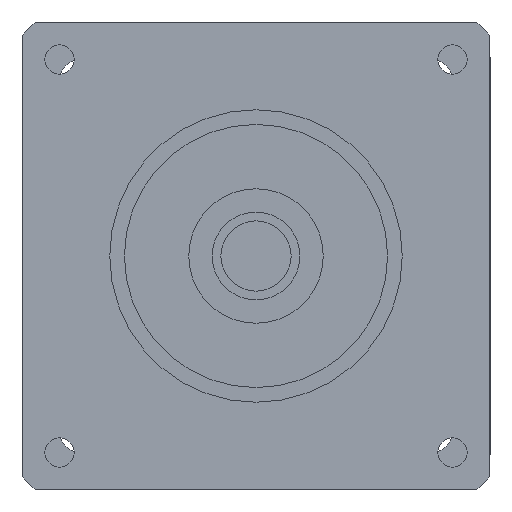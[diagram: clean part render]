
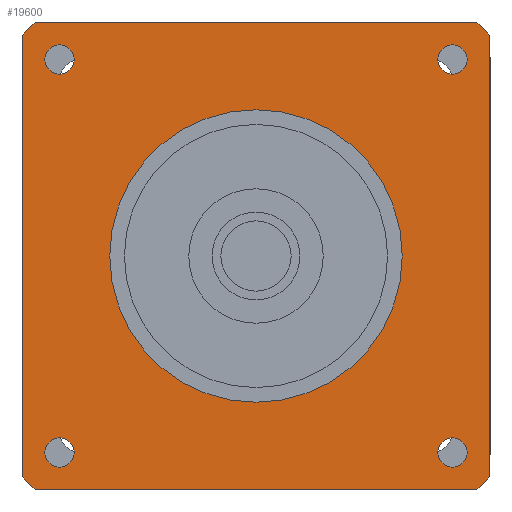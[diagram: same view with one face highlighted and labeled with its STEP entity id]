
A CAD part, left-side view. The second image highlights one B-rep face of the part: STEP entity #19600.
In plain terms, the highlighted planar face has unit normal (-1, 0, 0) as drawn and (0, 0, -1) by its records, which use the part's own axes.
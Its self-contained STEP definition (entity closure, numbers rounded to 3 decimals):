
#14150=CARTESIAN_POINT('',(-40.,-37.749,-42.));
#14160=VERTEX_POINT('',#14150);
#14210=CARTESIAN_POINT('',(-40.,40.,-42.));
#14220=DIRECTION('',(0.,-1.,0.));
#14230=VECTOR('',#14220,1000.);
#14240=LINE('',#14210,#14230);
#14250=CARTESIAN_POINT('',(-40.,37.749,-42.));
#14260=VERTEX_POINT('',#14250);
#14270=EDGE_CURVE('',#14260,#14160,#14240,.T.);
#18060=CARTESIAN_POINT('',(33.588,-31.088,-42.));
#18070=VERTEX_POINT('',#18060);
#18150=CARTESIAN_POINT('',(33.588,-36.088,-42.));
#18160=VERTEX_POINT('',#18150);
#18190=CARTESIAN_POINT('',(33.588,-33.588,-42.));
#18200=DIRECTION('',(0.,0.,1.));
#18210=DIRECTION('',(0.,1.,0.));
#18220=AXIS2_PLACEMENT_3D('',#18190,#18200,#18210);
#18230=CIRCLE('',#18220,2.5);
#18240=EDGE_CURVE('',#18160,#18070,#18230,.T.);
#18290=CARTESIAN_POINT('',(40.,-40.,-42.));
#18300=DIRECTION('',(0.,0.,1.));
#18310=DIRECTION('',(0.,1.,0.));
#18320=AXIS2_PLACEMENT_3D('',#18290,#18300,#18310);
#18330=PLANE('',#18320);
#18340=CARTESIAN_POINT('',(-33.588,-33.588,-42.));
#18350=DIRECTION('',(0.,0.,1.));
#18360=DIRECTION('',(0.,1.,0.));
#18370=AXIS2_PLACEMENT_3D('',#18340,#18350,#18360);
#18380=CIRCLE('',#18370,2.5);
#18390=CARTESIAN_POINT('',(-33.588,-31.088,-42.));
#18400=VERTEX_POINT('',#18390);
#18410=CARTESIAN_POINT('',(-33.588,-36.088,-42.));
#18420=VERTEX_POINT('',#18410);
#18430=EDGE_CURVE('',#18400,#18420,#18380,.T.);
#18440=ORIENTED_EDGE('',*,*,#18430,.T.);
#18450=EDGE_CURVE('',#18420,#18400,#18380,.T.);
#18460=ORIENTED_EDGE('',*,*,#18450,.T.);
#18470=EDGE_LOOP('',(#18460,#18440));
#18480=FACE_BOUND('',#18470,.T.);
#18490=CARTESIAN_POINT('',(33.588,33.588,-42.));
#18500=DIRECTION('',(0.,0.,1.));
#18510=DIRECTION('',(0.,1.,0.));
#18520=AXIS2_PLACEMENT_3D('',#18490,#18500,#18510);
#18530=CIRCLE('',#18520,2.5);
#18540=CARTESIAN_POINT('',(33.588,36.088,-42.));
#18550=VERTEX_POINT('',#18540);
#18560=CARTESIAN_POINT('',(33.588,31.088,-42.));
#18570=VERTEX_POINT('',#18560);
#18580=EDGE_CURVE('',#18550,#18570,#18530,.T.);
#18590=ORIENTED_EDGE('',*,*,#18580,.T.);
#18600=EDGE_CURVE('',#18570,#18550,#18530,.T.);
#18610=ORIENTED_EDGE('',*,*,#18600,.T.);
#18620=EDGE_LOOP('',(#18610,#18590));
#18630=FACE_BOUND('',#18620,.T.);
#18640=CARTESIAN_POINT('',(-33.588,33.588,-42.));
#18650=DIRECTION('',(0.,0.,1.));
#18660=DIRECTION('',(0.,1.,0.));
#18670=AXIS2_PLACEMENT_3D('',#18640,#18650,#18660);
#18680=CIRCLE('',#18670,2.5);
#18690=CARTESIAN_POINT('',(-33.588,36.088,-42.));
#18700=VERTEX_POINT('',#18690);
#18710=CARTESIAN_POINT('',(-33.588,31.088,-42.));
#18720=VERTEX_POINT('',#18710);
#18730=EDGE_CURVE('',#18700,#18720,#18680,.T.);
#18740=ORIENTED_EDGE('',*,*,#18730,.T.);
#18750=EDGE_CURVE('',#18720,#18700,#18680,.T.);
#18760=ORIENTED_EDGE('',*,*,#18750,.T.);
#18770=EDGE_LOOP('',(#18760,#18740));
#18780=FACE_BOUND('',#18770,.T.);
#18790=CARTESIAN_POINT('',(0.,0.,
-42.));
#18800=DIRECTION('',(0.,0.,1.));
#18810=DIRECTION('',(0.,-1.,0.));
#18820=AXIS2_PLACEMENT_3D('',#18790,#18800,#18810);
#18830=CIRCLE('',#18820,25.);
#18840=CARTESIAN_POINT('',(0.,-25.,-42.));
#18850=VERTEX_POINT('',#18840);
#18860=CARTESIAN_POINT('',(0.,25.,-42.));
#18870=VERTEX_POINT('',#18860);
#18880=EDGE_CURVE('',#18850,#18870,#18830,.T.);
#18890=ORIENTED_EDGE('',*,*,#18880,.T.);
#18900=EDGE_CURVE('',#18870,#18850,#18830,.T.);
#18910=ORIENTED_EDGE('',*,*,#18900,.T.);
#18920=EDGE_LOOP('',(#18910,#18890));
#18930=FACE_BOUND('',#18920,.T.);
#18940=EDGE_CURVE('',#18070,#18160,#18230,.T.);
#18950=ORIENTED_EDGE('',*,*,#18940,.T.);
#18960=ORIENTED_EDGE('',*,*,#18240,.T.);
#18970=EDGE_LOOP('',(#18960,#18950));
#18980=FACE_BOUND('',#18970,.T.);
#18990=CARTESIAN_POINT('',(0.,0.,
-42.));
#19000=DIRECTION('',(0.,0.,1.));
#19010=DIRECTION('',(0.,1.,0.));
#19020=AXIS2_PLACEMENT_3D('',#18990,#19000,#19010);
#19030=CIRCLE('',#19020,55.);
#19040=CARTESIAN_POINT('',(-37.749,40.,-42.));
#19050=VERTEX_POINT('',#19040);
#19060=EDGE_CURVE('',#19050,#14260,#19030,.T.);
#19070=ORIENTED_EDGE('',*,*,#19060,.F.);
#19080=ORIENTED_EDGE('',*,*,#14270,.F.);
#19090=CARTESIAN_POINT('',(0.,0.,
-42.));
#19100=DIRECTION('',(0.,0.,1.));
#19110=DIRECTION('',(0.,1.,0.));
#19120=AXIS2_PLACEMENT_3D('',#19090,#19100,#19110);
#19130=CIRCLE('',#19120,55.);
#19140=CARTESIAN_POINT('',(-37.749,-40.,-42.));
#19150=VERTEX_POINT('',#19140);
#19160=EDGE_CURVE('',#14160,#19150,#19130,.T.);
#19170=ORIENTED_EDGE('',*,*,#19160,.F.);
#19180=CARTESIAN_POINT('',(-40.,-40.,-42.));
#19190=DIRECTION('',(1.,0.,0.));
#19200=VECTOR('',#19190,1000.);
#19210=LINE('',#19180,#19200);
#19220=CARTESIAN_POINT('',(37.749,-40.,-42.));
#19230=VERTEX_POINT('',#19220);
#19240=EDGE_CURVE('',#19150,#19230,#19210,.T.);
#19250=ORIENTED_EDGE('',*,*,#19240,.F.);
#19260=CARTESIAN_POINT('',(0.,0.,
-42.));
#19270=DIRECTION('',(0.,0.,1.));
#19280=DIRECTION('',(0.,1.,0.));
#19290=AXIS2_PLACEMENT_3D('',#19260,#19270,#19280);
#19300=CIRCLE('',#19290,55.);
#19310=CARTESIAN_POINT('',(40.,-37.749,-42.));
#19320=VERTEX_POINT('',#19310);
#19330=EDGE_CURVE('',#19230,#19320,#19300,.T.);
#19340=ORIENTED_EDGE('',*,*,#19330,.F.);
#19350=CARTESIAN_POINT('',(40.,-40.,-42.));
#19360=DIRECTION('',(0.,1.,0.));
#19370=VECTOR('',#19360,1000.);
#19380=LINE('',#19350,#19370);
#19390=CARTESIAN_POINT('',(40.,37.749,-42.));
#19400=VERTEX_POINT('',#19390);
#19410=EDGE_CURVE('',#19320,#19400,#19380,.T.);
#19420=ORIENTED_EDGE('',*,*,#19410,.F.);
#19430=CARTESIAN_POINT('',(0.,0.,
-42.));
#19440=DIRECTION('',(0.,0.,1.));
#19450=DIRECTION('',(0.,1.,0.));
#19460=AXIS2_PLACEMENT_3D('',#19430,#19440,#19450);
#19470=CIRCLE('',#19460,55.);
#19480=CARTESIAN_POINT('',(37.749,40.,-42.));
#19490=VERTEX_POINT('',#19480);
#19500=EDGE_CURVE('',#19400,#19490,#19470,.T.);
#19510=ORIENTED_EDGE('',*,*,#19500,.F.);
#19520=CARTESIAN_POINT('',(40.,40.,-42.));
#19530=DIRECTION('',(-1.,0.,0.));
#19540=VECTOR('',#19530,1000.);
#19550=LINE('',#19520,#19540);
#19560=EDGE_CURVE('',#19490,#19050,#19550,.T.);
#19570=ORIENTED_EDGE('',*,*,#19560,.F.);
#19580=EDGE_LOOP('',(#19570,#19510,#19420,#19340,#19250,#19170,#19080,
#19070));
#19590=FACE_OUTER_BOUND('',#19580,.T.);
#19600=ADVANCED_FACE('',(#18480,#18630,#18780,#18930,#18980,#19590),
#18330,.F.);
